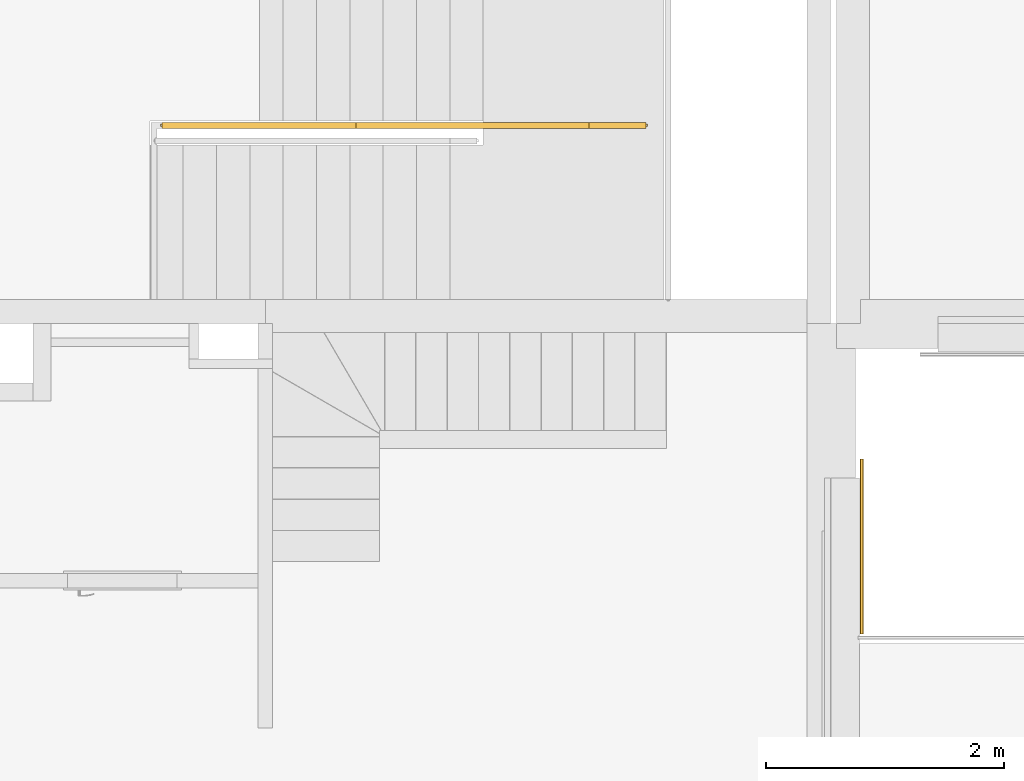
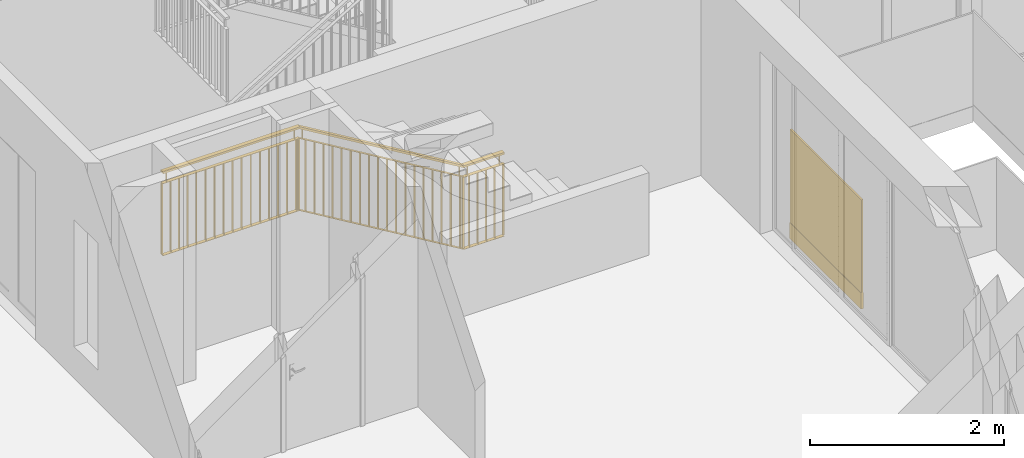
# One storey, part 5 of 61: 2 railings.
"""IFC2X3 building model written with IfcOpenShell, lengths in millimetres."""

from ifc_helpers import new_model, entity, si_unit, converted_unit, derived_unit, money_unit, direction, frame, origin_with_axes, place, context, subcontext, project, spatial, faceted_brep, material, material_list, type_object, element, save


model = new_model("IFC2X3")

# Units and contexts
model_context = context("Model", 3, precision=0.01, world=origin_with_axes(), true_north=direction((0.34421633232, 0.938890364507)))
body_context = subcontext(model_context, "Body", "Model", "MODEL_VIEW")
ifc_project = project(units=[si_unit("LENGTHUNIT", "METRE", prefix="MILLI"), si_unit("AREAUNIT", "SQUARE_METRE"), si_unit("VOLUMEUNIT", "CUBIC_METRE"), converted_unit("PLANEANGLEUNIT", "DEGREE", entity("IfcPlaneAngleMeasure", 0.0174532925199), si_unit("PLANEANGLEUNIT", "RADIAN"), dimensions=[0, 0, 0, 0, 0, 0, 0]), si_unit("SOLIDANGLEUNIT", "STERADIAN"), money_unit("USD"), converted_unit("TIMEUNIT", "Year", entity("IfcTimeMeasure", 31556926.0), si_unit("TIMEUNIT", "SECOND"), dimensions=[0, 0, 1, 0, 0, 0, 0]), si_unit("MASSUNIT", "GRAM", prefix="KILO"), si_unit("THERMODYNAMICTEMPERATUREUNIT", "DEGREE_CELSIUS"), si_unit("LUMINOUSINTENSITYUNIT", "LUMEN"), si_unit("ENERGYUNIT", "JOULE", prefix="MEGA"), derived_unit("THERMALCONDUCTANCEUNIT", [(si_unit("POWERUNIT", "WATT"), 1), (si_unit("LENGTHUNIT", "METRE"), -1), (si_unit("THERMODYNAMICTEMPERATUREUNIT", "KELVIN"), -1)]), derived_unit("SPECIFICHEATCAPACITYUNIT", [(si_unit("ENERGYUNIT", "JOULE"), 1), (si_unit("MASSUNIT", "GRAM", prefix="KILO"), -1), (si_unit("THERMODYNAMICTEMPERATUREUNIT", "KELVIN"), -1)]), derived_unit("MASSDENSITYUNIT", [(si_unit("MASSUNIT", "GRAM", prefix="KILO"), 1), (si_unit("VOLUMEUNIT", "CUBIC_METRE"), -1)])], contexts=[model_context])

# Site, building, storey
site_placement = place(None, origin_with_axes())
site = spatial("IfcSite", under=ifc_project, at=site_placement, Name="USTRONIE MORSKIE", CompositionType="ELEMENT")
building_placement = place(site_placement, origin_with_axes())
building = spatial("IfcBuilding", under=site, at=building_placement, Name="Budynek", CompositionType="ELEMENT")
storey_placement = place(building_placement, frame((0.0, 0.0, 13000.0), z_axis=(0.0, 0.0, 1.0), x_axis=(1.0, 0.0, 0.0)))
storey = spatial("IfcBuildingStorey", under=building, at=storey_placement, Name="PIĘTRO 4", CompositionType="ELEMENT", Elevation=13000.0)

# Railings
ifc_material_1 = material(Name="Szkło struktualne")
ifc_material_2 = material(Name="Profile aluminiowe")
ifc_material_list_1 = material_list([ifc_material_1, ifc_material_2])
railing_type = type_object("IfcRailingType", Name="Typ balustrady", PredefinedType="NOTDEFINED")
railing_1_placement = place(storey_placement, frame((367377.958165, 724111.198359, 0.0), z_axis=(0.0, 0.0, 1.0), x_axis=(-1.0, 0.0, 0.0)))
element("IfcRailing", 1, at=railing_1_placement, inside=storey, type_object=railing_type, material=ifc_material_list_1, Name="BL1", PredefinedType="NOTDEFINED", context=body_context, shape_type="Brep", body=[
    faceted_brep([(-40.0, -1550.0, -300.0), (-40.0, -80.0, -300.0), (-40.0, -80.0, 1070.0), (-40.0, -1550.0, 1070.0), (-60.0, -80.0, -300.0), (-60.0, -1550.0, -300.0), (-60.0, -80.0, 1070.0), (-60.0, -1550.0, 1070.0)], [[[0, 1, 2, 3]], [[4, 1, 0, 5]], [[6, 2, 1, 4]], [[3, 2, 6, 7]], [[0, 3, 7, 5]], [[6, 4, 5, 7]]]),
    faceted_brep([(-65.0, -1550.0, -105.0), (-65.0, -80.0, -105.0), (-65.0, -80.0, -305.0), (-65.0, -1550.0, -305.0), (-60.0, -1550.0, -105.0), (-60.0, -80.0, -105.0), (-60.0, -80.0, -300.0), (-40.0, -80.0, -300.0), (-40.0, -80.0, -105.0), (-35.0, -80.0, -105.0), (-35.0, -80.0, -305.0), (-35.0, -1550.0, -305.0), (-35.0, -1550.0, -105.0), (-40.0, -1550.0, -105.0), (-40.0, -1550.0, -300.0), (-60.0, -1550.0, -300.0)], [[[0, 1, 2, 3]], [[1, 0, 4, 5]], [[6, 7, 8, 9, 10, 2, 1, 5]], [[10, 11, 3, 2]], [[11, 12, 13, 14, 15, 4, 0, 3]], [[15, 6, 5, 4]], [[7, 6, 15, 14]], [[8, 7, 14, 13]], [[9, 8, 13, 12]], [[11, 10, 9, 12]]]),
])
ifc_material_3 = material(Name="Stal konstrukcyjna")
ifc_material_4 = material(Name="Stal nierdzewna")
ifc_material_list_2 = material_list([ifc_material_3, ifc_material_3, ifc_material_3, ifc_material_3, ifc_material_4, ifc_material_4, ifc_material_4, ifc_material_3, ifc_material_3, ifc_material_3, ifc_material_3, ifc_material_3, ifc_material_3, ifc_material_3, ifc_material_3, ifc_material_3, ifc_material_3, ifc_material_3, ifc_material_3, ifc_material_3, ifc_material_3, ifc_material_3, ifc_material_4, ifc_material_4, ifc_material_4, ifc_material_3, ifc_material_3, ifc_material_3, ifc_material_3, ifc_material_3, ifc_material_3, ifc_material_3, ifc_material_3, ifc_material_3, ifc_material_3, ifc_material_3, ifc_material_3, ifc_material_3, ifc_material_3, ifc_material_3, ifc_material_3, ifc_material_3, ifc_material_3, ifc_material_4, ifc_material_4, ifc_material_4, ifc_material_3, ifc_material_3, ifc_material_3, ifc_material_3])
railing_2_placement = place(storey_placement, frame((361447.920919, 728501.199022, -1177.0), z_axis=(0.0, 0.0, 1.0), x_axis=(1.0, 0.0, 0.0)))
element("IfcRailing", 2, at=railing_2_placement, inside=storey, type_object=railing_type, material=ifc_material_list_2, Name="BL1", PredefinedType="NOTDEFINED", context=body_context, shape_type="Brep", body=[
    faceted_brep([(110.0, -44.9999999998, 1026.66666667), (110.0, -24.9999999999, 1026.66666667), (110.0, -24.9999999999, 1926.66666667), (110.0, -44.9999999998, 1926.66666667), (90.0, -44.9999999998, 1026.66666667), (90.0, -24.9999999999, 1026.66666667), (105.0, -39.9999999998, 1026.66666667), (105.0, -29.9999999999, 1026.66666667), (95.0, -29.9999999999, 1026.66666667), (95.0, -39.9999999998, 1026.66666667), (90.0, -24.9999999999, 1926.66666667), (90.0, -44.9999999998, 1926.66666667), (105.0, -39.9999999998, 1926.66666667), (95.0, -39.9999999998, 1926.66666667), (95.0, -29.9999999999, 1926.66666667), (105.0, -29.9999999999, 1926.66666667)], [[[0, 1, 2, 3]], [[0, 4, 5, 1], [6, 7, 8, 9]], [[1, 5, 10, 2]], [[3, 2, 10, 11], [12, 13, 14, 15]], [[4, 0, 3, 11]], [[5, 4, 11, 10]], [[7, 6, 12, 15]], [[8, 7, 15, 14]], [[9, 8, 14, 13]], [[6, 9, 13, 12]]]),
    faceted_brep([(1740.0, -45.0, 1023.89548073), (1740.0, -25.0, 1023.89548073), (1740.0, -25.0, 1923.89548073), (1740.0, -45.0, 1923.89548073), (1720.0, -45.0, 1029.4378526), (1720.0, -25.0, 1029.4378526), (1735.0, -40.0, 1025.2810737), (1735.0, -30.0, 1025.2810737), (1725.0, -30.0, 1028.05225963), (1725.0, -40.0, 1028.05225963), (1720.0, -25.0, 1929.4378526), (1720.0, -45.0, 1929.4378526), (1735.0, -40.0, 1925.2810737), (1725.0, -40.0, 1928.05225963), (1725.0, -30.0, 1928.05225963), (1735.0, -30.0, 1925.2810737)], [[[0, 1, 2, 3]], [[0, 4, 5, 1], [6, 7, 8, 9]], [[1, 5, 10, 2]], [[3, 2, 10, 11], [12, 13, 14, 15]], [[4, 0, 3, 11]], [[5, 4, 11, 10]], [[7, 6, 12, 15]], [[8, 7, 15, 14]], [[9, 8, 14, 13]], [[6, 9, 13, 12]]]),
    faceted_brep([(3700.0, -45.0, -152.771185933), (3700.0, -25.0, -152.771185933), (3700.0, -25.0, 747.228814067), (3700.0, -45.0, 747.228814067), (3680.0, -45.0, -147.228814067), (3680.0, -25.0, -147.228814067), (3695.0, -40.0, -151.385592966), (3695.0, -30.0, -151.385592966), (3685.0, -30.0, -148.614407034), (3685.0, -40.0, -148.614407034), (3680.0, -25.0, 752.771185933), (3680.0, -45.0, 752.771185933), (3695.0, -40.0, 748.614407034), (3685.0, -40.0, 751.385592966), (3685.0, -30.0, 751.385592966), (3695.0, -30.0, 748.614407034)], [[[0, 1, 2, 3]], [[0, 4, 5, 1], [6, 7, 8, 9]], [[1, 5, 10, 2]], [[3, 2, 10, 11], [12, 13, 14, 15]], [[4, 0, 3, 11]], [[5, 4, 11, 10]], [[7, 6, 12, 15]], [[8, 7, 15, 14]], [[9, 8, 14, 13]], [[6, 9, 13, 12]]]),
    faceted_brep([(4180.0, -45.0, -150.0), (4180.0, -25.0, -150.0), (4180.0, -25.0, 750.0), (4180.0, -45.0, 750.0), (4160.0, -45.0, -150.0), (4160.0, -25.0, -150.0), (4175.0, -40.0, -150.0), (4175.0, -30.0, -150.0), (4165.0, -30.0, -150.0), (4165.0, -40.0, -150.0), (4160.0, -25.0, 750.0), (4160.0, -45.0, 750.0), (4175.0, -40.0, 750.0), (4165.0, -40.0, 750.0), (4165.0, -30.0, 750.0), (4175.0, -30.0, 750.0)], [[[0, 1, 2, 3]], [[0, 4, 5, 1], [6, 7, 8, 9]], [[1, 5, 10, 2]], [[3, 2, 10, 11], [12, 13, 14, 15]], [[4, 0, 3, 11]], [[5, 4, 11, 10]], [[7, 6, 12, 15]], [[8, 7, 15, 14]], [[9, 8, 14, 13]], [[6, 9, 13, 12]]]),
    faceted_brep([(100.0, -59.9999999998, 2076.66666667), (100.0, -59.9999999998, 2051.66666667), (1723.07203517, -59.9999999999, 2051.66666667), (1730.0, -59.9999999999, 2076.66666667), (100.0, -9.99999999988, 2076.66666667), (100.0, -9.99999999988, 2051.66666667), (100.0, -24.9999999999, 2051.66666667), (100.0, -24.9999999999, 2056.66666667), (100.0, -44.9999999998, 2056.66666667), (100.0, -44.9999999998, 2051.66666667), (1723.07203517, -45.0, 2051.66666667), (1724.45762813, -45.0, 2056.66666667), (1724.45762813, -25.0, 2056.66666667), (1723.07203517, -25.0, 2051.66666667), (1723.07203517, -9.99999999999, 2051.66666667), (1730.0, -9.99999999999, 2076.66666667)], [[[0, 1, 2, 3]], [[0, 4, 5, 6, 7, 8, 9, 1]], [[1, 9, 10, 2]], [[3, 2, 10, 11, 12, 13, 14, 15]], [[4, 0, 3, 15]], [[5, 4, 15, 14]], [[6, 5, 14, 13]], [[7, 6, 13, 12]], [[8, 7, 12, 11]], [[9, 8, 11, 10]]]),
    faceted_brep([(100.0, -44.9999999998, 2051.66666667), (100.0, -24.9999999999, 2051.66666667), (1723.07203517, -25.0, 2051.66666667), (1723.07203517, -45.0, 2051.66666667), (100.0, -44.9999999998, 2056.66666667), (100.0, -24.9999999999, 2056.66666667), (1724.45762813, -25.0, 2056.66666667), (1724.45762813, -45.0, 2056.66666667)], [[[0, 1, 2, 3]], [[0, 4, 5, 1]], [[1, 5, 6, 2]], [[3, 2, 6, 7]], [[4, 0, 3, 7]], [[5, 4, 7, 6]]]),
    faceted_brep([(152.5, -44.9999999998, 1931.66666667), (152.5, -24.9999999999, 1931.66666667), (152.5, -24.9999999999, 2051.66666667), (152.5, -44.9999999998, 2051.66666667), (147.5, -44.9999999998, 1931.66666667), (147.5, -24.9999999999, 1931.66666667), (147.5, -24.9999999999, 2051.66666667), (147.5, -44.9999999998, 2051.66666667)], [[[0, 1, 2, 3]], [[0, 4, 5, 1]], [[1, 5, 6, 2]], [[3, 2, 6, 7]], [[4, 0, 3, 7]], [[5, 4, 7, 6]]]),
    faceted_brep([(1682.5, -45.0, 1931.66666667), (1682.5, -25.0, 1931.66666667), (1682.5, -25.0, 2051.66666667), (1682.5, -45.0, 2051.66666667), (1677.5, -45.0, 1931.66666667), (1677.5, -25.0, 1931.66666667), (1677.5, -25.0, 2051.66666667), (1677.5, -45.0, 2051.66666667)], [[[0, 1, 2, 3]], [[0, 4, 5, 1]], [[1, 5, 6, 2]], [[3, 2, 6, 7]], [[4, 0, 3, 7]], [[5, 4, 7, 6]]]),
    faceted_brep([(100.0, -54.9999999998, 1926.66666667), (100.0, -54.9999999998, 1921.66666667), (1728.61440703, -54.9999999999, 1921.66666667), (1730.0, -54.9999999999, 1926.66666667), (100.0, -14.9999999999, 1926.66666667), (100.0, -14.9999999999, 1921.66666667), (1728.61440703, -15.0, 1921.66666667), (1730.0, -15.0, 1926.66666667)], [[[0, 1, 2, 3]], [[0, 4, 5, 1]], [[1, 5, 6, 2]], [[3, 2, 6, 7]], [[4, 0, 3, 7]], [[5, 4, 7, 6]]]),
    faceted_brep([(100.0, -54.9999999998, 1019.16666667), (100.0, -54.9999999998, 1014.16666667), (1729.30720352, -54.9999999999, 1014.16666667), (1730.69279648, -54.9999999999, 1019.16666667), (100.0, -14.9999999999, 1019.16666667), (100.0, -14.9999999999, 1014.16666667), (1729.30720352, -15.0, 1014.16666667), (1730.69279648, -15.0, 1019.16666667)], [[[0, 1, 2, 3]], [[0, 4, 5, 1]], [[1, 5, 6, 2]], [[3, 2, 6, 7]], [[4, 0, 3, 7]], [[5, 4, 7, 6]]]),
    faceted_brep([(207.5, -47.4999999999, 1026.66666667), (207.5, -22.4999999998, 1026.66666667), (207.5, -22.4999999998, 1916.66666667), (207.5, -47.4999999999, 1916.66666667), (197.5, -47.4999999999, 1026.66666667), (197.5, -22.4999999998, 1026.66666667), (197.5, -22.4999999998, 1916.66666667), (197.5, -47.4999999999, 1916.66666667)], [[[0, 1, 2, 3]], [[0, 4, 5, 1]], [[1, 5, 6, 2]], [[3, 2, 6, 7]], [[4, 0, 3, 7]], [[5, 4, 7, 6]]]),
    faceted_brep([(310.0, -47.4999999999, 1026.66666667), (310.0, -22.4999999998, 1026.66666667), (310.0, -22.4999999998, 1916.66666667), (310.0, -47.4999999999, 1916.66666667), (300.0, -47.4999999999, 1026.66666667), (300.0, -22.4999999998, 1026.66666667), (300.0, -22.4999999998, 1916.66666667), (300.0, -47.4999999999, 1916.66666667)], [[[0, 1, 2, 3]], [[0, 4, 5, 1]], [[1, 5, 6, 2]], [[3, 2, 6, 7]], [[4, 0, 3, 7]], [[5, 4, 7, 6]]]),
    faceted_brep([(412.5, -47.4999999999, 1026.66666667), (412.5, -22.4999999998, 1026.66666667), (412.5, -22.4999999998, 1916.66666667), (412.5, -47.4999999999, 1916.66666667), (402.5, -47.4999999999, 1026.66666667), (402.5, -22.4999999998, 1026.66666667), (402.5, -22.4999999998, 1916.66666667), (402.5, -47.4999999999, 1916.66666667)], [[[0, 1, 2, 3]], [[0, 4, 5, 1]], [[1, 5, 6, 2]], [[3, 2, 6, 7]], [[4, 0, 3, 7]], [[5, 4, 7, 6]]]),
    faceted_brep([(512.5, -49.9999999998, 1026.66666667), (512.5, -19.9999999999, 1026.66666667), (512.5, -19.9999999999, 1916.66666667), (512.5, -49.9999999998, 1916.66666667), (507.5, -49.9999999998, 1026.66666667), (507.5, -19.9999999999, 1026.66666667), (507.5, -19.9999999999, 1916.66666667), (507.5, -49.9999999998, 1916.66666667)], [[[0, 1, 2, 3]], [[0, 4, 5, 1]], [[1, 5, 6, 2]], [[3, 2, 6, 7]], [[4, 0, 3, 7]], [[5, 4, 7, 6]]]),
    faceted_brep([(623.333333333, -47.4999999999, 1026.66666667), (623.333333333, -22.4999999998, 1026.66666667), (623.333333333, -22.4999999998, 1916.66666667), (623.333333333, -47.4999999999, 1916.66666667), (613.333333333, -47.4999999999, 1026.66666667), (613.333333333, -22.4999999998, 1026.66666667), (613.333333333, -22.4999999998, 1916.66666667), (613.333333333, -47.4999999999, 1916.66666667)], [[[0, 1, 2, 3]], [[0, 4, 5, 1]], [[1, 5, 6, 2]], [[3, 2, 6, 7]], [[4, 0, 3, 7]], [[5, 4, 7, 6]]]),
    faceted_brep([(731.666666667, -47.4999999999, 1026.66666667), (731.666666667, -22.4999999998, 1026.66666667), (731.666666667, -22.4999999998, 1916.66666667), (731.666666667, -47.4999999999, 1916.66666667), (721.666666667, -47.4999999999, 1026.66666667), (721.666666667, -22.4999999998, 1026.66666667), (721.666666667, -22.4999999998, 1916.66666667), (721.666666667, -47.4999999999, 1916.66666667)], [[[0, 1, 2, 3]], [[0, 4, 5, 1]], [[1, 5, 6, 2]], [[3, 2, 6, 7]], [[4, 0, 3, 7]], [[5, 4, 7, 6]]]),
    faceted_brep([(840.0, -47.4999999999, 1026.66666667), (840.0, -22.4999999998, 1026.66666667), (840.0, -22.4999999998, 1916.66666667), (840.0, -47.4999999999, 1916.66666667), (830.0, -47.4999999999, 1026.66666667), (830.0, -22.4999999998, 1026.66666667), (830.0, -22.4999999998, 1916.66666667), (830.0, -47.4999999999, 1916.66666667)], [[[0, 1, 2, 3]], [[0, 4, 5, 1]], [[1, 5, 6, 2]], [[3, 2, 6, 7]], [[4, 0, 3, 7]], [[5, 4, 7, 6]]]),
    faceted_brep([(948.333333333, -47.5, 1026.66666667), (948.333333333, -22.4999999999, 1026.66666667), (948.333333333, -22.4999999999, 1916.66666667), (948.333333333, -47.5, 1916.66666667), (938.333333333, -47.5, 1026.66666667), (938.333333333, -22.4999999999, 1026.66666667), (938.333333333, -22.4999999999, 1916.66666667), (938.333333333, -47.5, 1916.66666667)], [[[0, 1, 2, 3]], [[0, 4, 5, 1]], [[1, 5, 6, 2]], [[3, 2, 6, 7]], [[4, 0, 3, 7]], [[5, 4, 7, 6]]]),
    faceted_brep([(1056.66666667, -47.5, 1026.66666667), (1056.66666667, -22.4999999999, 1026.66666667), (1056.66666667, -22.4999999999, 1916.66666667), (1056.66666667, -47.5, 1916.66666667), (1046.66666667, -47.5, 1026.66666667), (1046.66666667, -22.4999999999, 1026.66666667), (1046.66666667, -22.4999999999, 1916.66666667), (1046.66666667, -47.5, 1916.66666667)], [[[0, 1, 2, 3]], [[0, 4, 5, 1]], [[1, 5, 6, 2]], [[3, 2, 6, 7]], [[4, 0, 3, 7]], [[5, 4, 7, 6]]]),
    faceted_brep([(1162.5, -50.0, 1026.66666667), (1162.5, -20.0, 1026.66666667), (1162.5, -20.0, 1916.66666667), (1162.5, -50.0, 1916.66666667), (1157.5, -50.0, 1026.66666667), (1157.5, -20.0, 1026.66666667), (1157.5, -20.0, 1916.66666667), (1157.5, -50.0, 1916.66666667)], [[[0, 1, 2, 3]], [[0, 4, 5, 1]], [[1, 5, 6, 2]], [[3, 2, 6, 7]], [[4, 0, 3, 7]], [[5, 4, 7, 6]]]),
    faceted_brep([(1273.33333333, -47.5, 1026.66666667), (1273.33333333, -22.4999999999, 1026.66666667), (1273.33333333, -22.4999999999, 1916.66666667), (1273.33333333, -47.5, 1916.66666667), (1263.33333333, -47.5, 1026.66666667), (1263.33333333, -22.4999999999, 1026.66666667), (1263.33333333, -22.4999999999, 1916.66666667), (1263.33333333, -47.5, 1916.66666667)], [[[0, 1, 2, 3]], [[0, 4, 5, 1]], [[1, 5, 6, 2]], [[3, 2, 6, 7]], [[4, 0, 3, 7]], [[5, 4, 7, 6]]]),
    faceted_brep([(1381.66666667, -47.5, 1026.66666667), (1381.66666667, -22.4999999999, 1026.66666667), (1381.66666667, -22.4999999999, 1916.66666667), (1381.66666667, -47.5, 1916.66666667), (1371.66666667, -47.5, 1026.66666667), (1371.66666667, -22.4999999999, 1026.66666667), (1371.66666667, -22.4999999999, 1916.66666667), (1371.66666667, -47.5, 1916.66666667)], [[[0, 1, 2, 3]], [[0, 4, 5, 1]], [[1, 5, 6, 2]], [[3, 2, 6, 7]], [[4, 0, 3, 7]], [[5, 4, 7, 6]]]),
    faceted_brep([(1490.0, -47.5, 1026.66666667), (1490.0, -22.4999999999, 1026.66666667), (1490.0, -22.4999999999, 1916.66666667), (1490.0, -47.5, 1916.66666667), (1480.0, -47.5, 1026.66666667), (1480.0, -22.4999999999, 1026.66666667), (1480.0, -22.4999999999, 1916.66666667), (1480.0, -47.5, 1916.66666667)], [[[0, 1, 2, 3]], [[0, 4, 5, 1]], [[1, 5, 6, 2]], [[3, 2, 6, 7]], [[4, 0, 3, 7]], [[5, 4, 7, 6]]]),
    faceted_brep([(1598.33333333, -47.5, 1026.66666667), (1598.33333333, -22.4999999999, 1026.66666667), (1598.33333333, -22.4999999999, 1916.66666667), (1598.33333333, -47.5, 1916.66666667), (1588.33333333, -47.5, 1026.66666667), (1588.33333333, -22.4999999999, 1026.66666667), (1588.33333333, -22.4999999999, 1916.66666667), (1588.33333333, -47.5, 1916.66666667)], [[[0, 1, 2, 3]], [[0, 4, 5, 1]], [[1, 5, 6, 2]], [[3, 2, 6, 7]], [[4, 0, 3, 7]], [[5, 4, 7, 6]]]),
    faceted_brep([(1706.66666667, -47.5, 1026.66666667), (1706.66666667, -22.4999999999, 1026.66666667), (1706.66666667, -22.4999999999, 1916.66666667), (1706.66666667, -47.5, 1916.66666667), (1696.66666667, -47.5, 1026.66666667), (1696.66666667, -22.4999999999, 1026.66666667), (1696.66666667, -22.4999999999, 1916.66666667), (1696.66666667, -47.5, 1916.66666667)], [[[0, 1, 2, 3]], [[0, 4, 5, 1]], [[1, 5, 6, 2]], [[3, 2, 6, 7]], [[4, 0, 3, 7]], [[5, 4, 7, 6]]]),
    faceted_brep([(1730.0, -59.9999999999, 2076.66666667), (1723.07203517, -59.9999999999, 2051.66666667), (3683.07203517, -59.9999999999, 875.0), (3690.0, -59.9999999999, 900.0), (1730.0, -9.99999999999, 2076.66666667), (1723.07203517, -9.99999999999, 2051.66666667), (1723.07203517, -25.0, 2051.66666667), (1724.45762813, -25.0, 2056.66666667), (1724.45762813, -45.0, 2056.66666667), (1723.07203517, -45.0, 2051.66666667), (3683.07203517, -45.0, 875.0), (3684.45762813, -45.0, 880.0), (3684.45762813, -25.0, 880.0), (3683.07203517, -25.0, 875.0), (3683.07203517, -9.99999999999, 875.0), (3690.0, -9.99999999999, 900.0)], [[[0, 1, 2, 3]], [[0, 4, 5, 6, 7, 8, 9, 1]], [[1, 9, 10, 2]], [[3, 2, 10, 11, 12, 13, 14, 15]], [[4, 0, 3, 15]], [[5, 4, 15, 14]], [[6, 5, 14, 13]], [[7, 6, 13, 12]], [[8, 7, 12, 11]], [[9, 8, 11, 10]]]),
    faceted_brep([(1723.07203517, -45.0, 2051.66666667), (1723.07203517, -25.0, 2051.66666667), (3683.07203517, -25.0, 875.0), (3683.07203517, -45.0, 875.0), (1724.45762813, -45.0, 2056.66666667), (1724.45762813, -25.0, 2056.66666667), (3684.45762813, -25.0, 880.0), (3684.45762813, -45.0, 880.0)], [[[0, 1, 2, 3]], [[0, 4, 5, 1]], [[1, 5, 6, 2]], [[3, 2, 6, 7]], [[4, 0, 3, 7]], [[5, 4, 7, 6]]]),
    faceted_brep([(1775.36821214, -45.0, 1901.77202301), (1775.36821214, -25.0, 1901.77202301), (1775.36821214, -25.0, 2021.77202301), (1775.36821214, -45.0, 2021.77202301), (1770.36821214, -45.0, 1901.77202301), (1770.36821214, -25.0, 1901.77202301), (1770.36821214, -25.0, 2023.27287335), (1772.86821214, -25.0, 2023.27287335), (1772.86821214, -45.0, 2023.27287335), (1770.36821214, -45.0, 2023.27287335)], [[[0, 1, 2, 3]], [[0, 4, 5, 1]], [[1, 5, 6, 7, 2]], [[7, 8, 3, 2]], [[4, 0, 3, 8, 9]], [[5, 4, 9, 6]], [[7, 6, 9, 8]]]),
    faceted_brep([(3649.63178786, -45.0, 776.576372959), (3649.63178786, -25.0, 776.576372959), (3649.63178786, -25.0, 896.576372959), (3649.63178786, -45.0, 896.576372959), (3644.63178786, -45.0, 776.576372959), (3644.63178786, -25.0, 776.576372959), (3644.63178786, -25.0, 898.077223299), (3647.13178786, -25.0, 898.077223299), (3647.13178786, -45.0, 898.077223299), (3644.63178786, -45.0, 898.077223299)], [[[0, 1, 2, 3]], [[0, 4, 5, 1]], [[1, 5, 6, 7, 2]], [[7, 8, 3, 2]], [[4, 0, 3, 8, 9]], [[5, 4, 9, 6]], [[7, 6, 9, 8]]]),
    faceted_brep([(1730.0, -54.9999999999, 1926.66666667), (1728.61440703, -54.9999999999, 1921.66666667), (3688.61440703, -54.9999999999, 745.0), (3690.0, -54.9999999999, 750.0), (1730.0, -15.0, 1926.66666667), (1728.61440703, -15.0, 1921.66666667), (3688.61440703, -15.0, 745.0), (3690.0, -15.0, 750.0)], [[[0, 1, 2, 3]], [[0, 4, 5, 1]], [[1, 5, 6, 2]], [[3, 2, 6, 7]], [[4, 0, 3, 7]], [[5, 4, 7, 6]]]),
    faceted_brep([(1730.69279648, -54.9999999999, 1019.16666667), (1729.30720352, -54.9999999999, 1014.16666667), (3689.30720352, -54.9999999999, -162.5), (3690.69279648, -54.9999999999, -157.5), (1730.69279648, -15.0, 1019.16666667), (1729.30720352, -15.0, 1014.16666667), (3689.30720352, -15.0, -162.5), (3690.69279648, -15.0, -157.5)], [[[0, 1, 2, 3]], [[0, 4, 5, 1]], [[1, 5, 6, 2]], [[3, 2, 6, 7]], [[4, 0, 3, 7]], [[5, 4, 7, 6]]]),
    faceted_brep([(1812.5, -50.0, 977.138605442), (1812.5, -20.0, 977.138605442), (1812.5, -20.0, 1867.13860544), (1812.5, -50.0, 1867.13860544), (1807.5, -50.0, 980.140306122), (1807.5, -20.0, 980.140306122), (1807.5, -20.0, 1870.14030612), (1807.5, -50.0, 1870.14030612)], [[[0, 1, 2, 3]], [[0, 4, 5, 1]], [[1, 5, 6, 2]], [[3, 2, 6, 7]], [[4, 0, 3, 7]], [[5, 4, 7, 6]]]),
    faceted_brep([(1923.33333333, -47.5, 910.600907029), (1923.33333333, -22.4999999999, 910.600907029), (1923.33333333, -22.4999999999, 1800.60090703), (1923.33333333, -47.5, 1800.60090703), (1913.33333333, -47.5, 916.60430839), (1913.33333333, -22.4999999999, 916.60430839), (1913.33333333, -22.4999999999, 1806.60430839), (1913.33333333, -47.5, 1806.60430839)], [[[0, 1, 2, 3]], [[0, 4, 5, 1]], [[1, 5, 6, 2]], [[3, 2, 6, 7]], [[4, 0, 3, 7]], [[5, 4, 7, 6]]]),
    faceted_brep([(2031.66666667, -47.5, 845.564058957), (2031.66666667, -22.4999999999, 845.564058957), (2031.66666667, -22.4999999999, 1735.56405896), (2031.66666667, -47.5, 1735.56405896), (2021.66666667, -47.5, 851.567460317), (2021.66666667, -22.4999999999, 851.567460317), (2021.66666667, -22.4999999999, 1741.56746032), (2021.66666667, -47.5, 1741.56746032)], [[[0, 1, 2, 3]], [[0, 4, 5, 1]], [[1, 5, 6, 2]], [[3, 2, 6, 7]], [[4, 0, 3, 7]], [[5, 4, 7, 6]]]),
    faceted_brep([(2140.0, -47.5, 780.527210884), (2140.0, -22.4999999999, 780.527210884), (2140.0, -22.4999999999, 1670.52721088), (2140.0, -47.5, 1670.52721088), (2130.0, -47.5, 786.530612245), (2130.0, -22.4999999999, 786.530612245), (2130.0, -22.4999999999, 1676.53061224), (2130.0, -47.5, 1676.53061224)], [[[0, 1, 2, 3]], [[0, 4, 5, 1]], [[1, 5, 6, 2]], [[3, 2, 6, 7]], [[4, 0, 3, 7]], [[5, 4, 7, 6]]]),
    faceted_brep([(2248.33333333, -47.5, 715.490362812), (2248.33333333, -22.4999999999, 715.490362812), (2248.33333333, -22.4999999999, 1605.49036281), (2248.33333333, -47.5, 1605.49036281), (2238.33333333, -47.5, 721.493764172), (2238.33333333, -22.4999999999, 721.493764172), (2238.33333333, -22.4999999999, 1611.49376417), (2238.33333333, -47.5, 1611.49376417)], [[[0, 1, 2, 3]], [[0, 4, 5, 1]], [[1, 5, 6, 2]], [[3, 2, 6, 7]], [[4, 0, 3, 7]], [[5, 4, 7, 6]]]),
    faceted_brep([(2356.66666667, -47.5, 650.453514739), (2356.66666667, -22.4999999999, 650.453514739), (2356.66666667, -22.4999999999, 1540.45351474), (2356.66666667, -47.5, 1540.45351474), (2346.66666667, -47.5, 656.4569161), (2346.66666667, -22.4999999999, 656.4569161), (2346.66666667, -22.4999999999, 1546.4569161), (2346.66666667, -47.5, 1546.4569161)], [[[0, 1, 2, 3]], [[0, 4, 5, 1]], [[1, 5, 6, 2]], [[3, 2, 6, 7]], [[4, 0, 3, 7]], [[5, 4, 7, 6]]]),
    faceted_brep([(2462.5, -50.0, 586.917517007), (2462.5, -20.0, 586.917517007), (2462.5, -20.0, 1476.91751701), (2462.5, -50.0, 1476.91751701), (2457.5, -50.0, 589.919217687), (2457.5, -20.0, 589.919217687), (2457.5, -20.0, 1479.91921769), (2457.5, -50.0, 1479.91921769)], [[[0, 1, 2, 3]], [[0, 4, 5, 1]], [[1, 5, 6, 2]], [[3, 2, 6, 7]], [[4, 0, 3, 7]], [[5, 4, 7, 6]]]),
    faceted_brep([(2573.33333333, -47.5, 520.379818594), (2573.33333333, -22.4999999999, 520.379818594), (2573.33333333, -22.4999999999, 1410.37981859), (2573.33333333, -47.5, 1410.37981859), (2563.33333333, -47.5, 526.383219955), (2563.33333333, -22.4999999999, 526.383219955), (2563.33333333, -22.4999999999, 1416.38321995), (2563.33333333, -47.5, 1416.38321995)], [[[0, 1, 2, 3]], [[0, 4, 5, 1]], [[1, 5, 6, 2]], [[3, 2, 6, 7]], [[4, 0, 3, 7]], [[5, 4, 7, 6]]]),
    faceted_brep([(2681.66666667, -47.5, 455.342970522), (2681.66666667, -22.4999999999, 455.342970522), (2681.66666667, -22.4999999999, 1345.34297052), (2681.66666667, -47.5, 1345.34297052), (2671.66666667, -47.5, 461.346371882), (2671.66666667, -22.4999999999, 461.346371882), (2671.66666667, -22.4999999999, 1351.34637188), (2671.66666667, -47.5, 1351.34637188)], [[[0, 1, 2, 3]], [[0, 4, 5, 1]], [[1, 5, 6, 2]], [[3, 2, 6, 7]], [[4, 0, 3, 7]], [[5, 4, 7, 6]]]),
    faceted_brep([(2790.0, -47.5, 390.306122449), (2790.0, -22.4999999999, 390.306122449), (2790.0, -22.4999999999, 1280.30612245), (2790.0, -47.5, 1280.30612245), (2780.0, -47.5, 396.30952381), (2780.0, -22.4999999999, 396.30952381), (2780.0, -22.4999999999, 1286.30952381), (2780.0, -47.5, 1286.30952381)], [[[0, 1, 2, 3]], [[0, 4, 5, 1]], [[1, 5, 6, 2]], [[3, 2, 6, 7]], [[4, 0, 3, 7]], [[5, 4, 7, 6]]]),
    faceted_brep([(2898.33333333, -47.5, 325.269274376), (2898.33333333, -22.4999999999, 325.269274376), (2898.33333333, -22.4999999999, 1215.26927438), (2898.33333333, -47.5, 1215.26927438), (2888.33333333, -47.5, 331.272675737), (2888.33333333, -22.4999999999, 331.272675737), (2888.33333333, -22.4999999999, 1221.27267574), (2888.33333333, -47.5, 1221.27267574)], [[[0, 1, 2, 3]], [[0, 4, 5, 1]], [[1, 5, 6, 2]], [[3, 2, 6, 7]], [[4, 0, 3, 7]], [[5, 4, 7, 6]]]),
    faceted_brep([(3006.66666667, -47.5, 260.232426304), (3006.66666667, -22.4999999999, 260.232426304), (3006.66666667, -22.4999999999, 1150.2324263), (3006.66666667, -47.5, 1150.2324263), (2996.66666667, -47.5, 266.235827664), (2996.66666667, -22.4999999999, 266.235827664), (2996.66666667, -22.4999999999, 1156.23582766), (2996.66666667, -47.5, 1156.23582766)], [[[0, 1, 2, 3]], [[0, 4, 5, 1]], [[1, 5, 6, 2]], [[3, 2, 6, 7]], [[4, 0, 3, 7]], [[5, 4, 7, 6]]]),
    faceted_brep([(3112.5, -50.0, 196.696428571), (3112.5, -20.0, 196.696428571), (3112.5, -20.0, 1086.69642857), (3112.5, -50.0, 1086.69642857), (3107.5, -50.0, 199.698129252), (3107.5, -20.0, 199.698129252), (3107.5, -20.0, 1089.69812925), (3107.5, -50.0, 1089.69812925)], [[[0, 1, 2, 3]], [[0, 4, 5, 1]], [[1, 5, 6, 2]], [[3, 2, 6, 7]], [[4, 0, 3, 7]], [[5, 4, 7, 6]]]),
    faceted_brep([(3223.33333333, -47.5, 130.158730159), (3223.33333333, -22.4999999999, 130.158730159), (3223.33333333, -22.4999999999, 1020.15873016), (3223.33333333, -47.5, 1020.15873016), (3213.33333333, -47.5, 136.162131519), (3213.33333333, -22.4999999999, 136.162131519), (3213.33333333, -22.4999999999, 1026.16213152), (3213.33333333, -47.5, 1026.16213152)], [[[0, 1, 2, 3]], [[0, 4, 5, 1]], [[1, 5, 6, 2]], [[3, 2, 6, 7]], [[4, 0, 3, 7]], [[5, 4, 7, 6]]]),
    faceted_brep([(3331.66666667, -47.5, 65.1218820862), (3331.66666667, -22.4999999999, 65.1218820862), (3331.66666667, -22.4999999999, 955.121882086), (3331.66666667, -47.5, 955.121882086), (3321.66666667, -47.5, 71.1252834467), (3321.66666667, -22.4999999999, 71.1252834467), (3321.66666667, -22.4999999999, 961.125283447), (3321.66666667, -47.5, 961.125283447)], [[[0, 1, 2, 3]], [[0, 4, 5, 1]], [[1, 5, 6, 2]], [[3, 2, 6, 7]], [[4, 0, 3, 7]], [[5, 4, 7, 6]]]),
    faceted_brep([(3440.0, -47.5, 0.0850340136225), (3440.0, -22.4999999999, 0.0850340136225), (3440.0, -22.4999999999, 890.085034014), (3440.0, -47.5, 890.085034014), (3430.0, -47.5, 6.08843537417), (3430.0, -22.4999999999, 6.08843537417), (3430.0, -22.4999999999, 896.088435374), (3430.0, -47.5, 896.088435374)], [[[0, 1, 2, 3]], [[0, 4, 5, 1]], [[1, 5, 6, 2]], [[3, 2, 6, 7]], [[4, 0, 3, 7]], [[5, 4, 7, 6]]]),
    faceted_brep([(3548.33333333, -47.5, -64.9518140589), (3548.33333333, -22.4999999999, -64.9518140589), (3548.33333333, -22.4999999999, 825.048185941), (3548.33333333, -47.5, 825.048185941), (3538.33333333, -47.5, -58.9484126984), (3538.33333333, -22.4999999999, -58.9484126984), (3538.33333333, -22.4999999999, 831.051587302), (3538.33333333, -47.5, 831.051587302)], [[[0, 1, 2, 3]], [[0, 4, 5, 1]], [[1, 5, 6, 2]], [[3, 2, 6, 7]], [[4, 0, 3, 7]], [[5, 4, 7, 6]]]),
    faceted_brep([(3656.66666667, -47.5, -129.988662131), (3656.66666667, -22.4999999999, -129.988662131), (3656.66666667, -22.4999999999, 760.011337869), (3656.66666667, -47.5, 760.011337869), (3646.66666667, -47.5, -123.985260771), (3646.66666667, -22.4999999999, -123.985260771), (3646.66666667, -22.4999999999, 766.014739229), (3646.66666667, -47.5, 766.014739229)], [[[0, 1, 2, 3]], [[0, 4, 5, 1]], [[1, 5, 6, 2]], [[3, 2, 6, 7]], [[4, 0, 3, 7]], [[5, 4, 7, 6]]]),
    faceted_brep([(3690.0, -59.9999999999, 900.0), (3683.07203517, -59.9999999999, 875.0), (4170.0, -59.9999999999, 875.0), (4170.0, -59.9999999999, 900.0), (3690.0, -9.99999999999, 900.0), (3683.07203517, -9.99999999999, 875.0), (3683.07203517, -25.0, 875.0), (3684.45762813, -25.0, 880.0), (3684.45762813, -45.0, 880.0), (3683.07203517, -45.0, 875.0), (4170.0, -45.0, 875.0), (4170.0, -45.0, 880.0), (4170.0, -25.0, 880.0), (4170.0, -25.0, 875.0), (4170.0, -9.99999999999, 875.0), (4170.0, -9.99999999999, 900.0)], [[[0, 1, 2, 3]], [[0, 4, 5, 6, 7, 8, 9, 1]], [[1, 9, 10, 2]], [[3, 2, 10, 11, 12, 13, 14, 15]], [[4, 0, 3, 15]], [[5, 4, 15, 14]], [[6, 5, 14, 13]], [[7, 6, 13, 12]], [[8, 7, 12, 11]], [[9, 8, 11, 10]]]),
    faceted_brep([(3683.07203517, -45.0, 875.0), (3683.07203517, -25.0, 875.0), (4170.0, -25.0, 875.0), (4170.0, -45.0, 875.0), (3684.45762813, -45.0, 880.0), (3684.45762813, -25.0, 880.0), (4170.0, -25.0, 880.0), (4170.0, -45.0, 880.0)], [[[0, 1, 2, 3]], [[0, 4, 5, 1]], [[1, 5, 6, 2]], [[3, 2, 6, 7]], [[4, 0, 3, 7]], [[5, 4, 7, 6]]]),
    faceted_brep([(3742.5, -45.0, 755.0), (3742.5, -25.0, 755.0), (3742.5, -25.0, 875.0), (3742.5, -45.0, 875.0), (3737.5, -45.0, 755.0), (3737.5, -25.0, 755.0), (3737.5, -25.0, 875.0), (3737.5, -45.0, 875.0)], [[[0, 1, 2, 3]], [[0, 4, 5, 1]], [[1, 5, 6, 2]], [[3, 2, 6, 7]], [[4, 0, 3, 7]], [[5, 4, 7, 6]]]),
    faceted_brep([(4122.5, -45.0, 755.0), (4122.5, -25.0, 755.0), (4122.5, -25.0, 875.0), (4122.5, -45.0, 875.0), (4117.5, -45.0, 755.0), (4117.5, -25.0, 755.0), (4117.5, -25.0, 875.0), (4117.5, -45.0, 875.0)], [[[0, 1, 2, 3]], [[0, 4, 5, 1]], [[1, 5, 6, 2]], [[3, 2, 6, 7]], [[4, 0, 3, 7]], [[5, 4, 7, 6]]]),
    faceted_brep([(3690.0, -54.9999999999, 750.0), (3688.61440703, -54.9999999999, 745.0), (4170.0, -54.9999999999, 745.0), (4170.0, -54.9999999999, 750.0), (3690.0, -15.0, 750.0), (3688.61440703, -15.0, 745.0), (4170.0, -15.0, 745.0), (4170.0, -15.0, 750.0)], [[[0, 1, 2, 3]], [[0, 4, 5, 1]], [[1, 5, 6, 2]], [[3, 2, 6, 7]], [[4, 0, 3, 7]], [[5, 4, 7, 6]]]),
    faceted_brep([(3690.69279648, -54.9999999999, -157.5), (3689.30720352, -54.9999999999, -162.5), (4170.0, -54.9999999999, -162.5), (4170.0, -54.9999999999, -157.5), (3690.69279648, -15.0, -157.5), (3689.30720352, -15.0, -162.5), (4170.0, -15.0, -162.5), (4170.0, -15.0, -157.5)], [[[0, 1, 2, 3]], [[0, 4, 5, 1]], [[1, 5, 6, 2]], [[3, 2, 6, 7]], [[4, 0, 3, 7]], [[5, 4, 7, 6]]]),
    faceted_brep([(3762.5, -50.0, -150.0), (3762.5, -20.0, -150.0), (3762.5, -20.0, 740.0), (3762.5, -50.0, 740.0), (3757.5, -50.0, -150.0), (3757.5, -20.0, -150.0), (3757.5, -20.0, 740.0), (3757.5, -50.0, 740.0)], [[[0, 1, 2, 3]], [[0, 4, 5, 1]], [[1, 5, 6, 2]], [[3, 2, 6, 7]], [[4, 0, 3, 7]], [[5, 4, 7, 6]]]),
    faceted_brep([(3867.5, -47.5, -150.0), (3867.5, -22.4999999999, -150.0), (3867.5, -22.4999999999, 740.0), (3867.5, -47.5, 740.0), (3857.5, -47.5, -150.0), (3857.5, -22.4999999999, -150.0), (3857.5, -22.4999999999, 740.0), (3857.5, -47.5, 740.0)], [[[0, 1, 2, 3]], [[0, 4, 5, 1]], [[1, 5, 6, 2]], [[3, 2, 6, 7]], [[4, 0, 3, 7]], [[5, 4, 7, 6]]]),
    faceted_brep([(3970.0, -47.5, -150.0), (3970.0, -22.4999999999, -150.0), (3970.0, -22.4999999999, 740.0), (3970.0, -47.5, 740.0), (3960.0, -47.5, -150.0), (3960.0, -22.4999999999, -150.0), (3960.0, -22.4999999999, 740.0), (3960.0, -47.5, 740.0)], [[[0, 1, 2, 3]], [[0, 4, 5, 1]], [[1, 5, 6, 2]], [[3, 2, 6, 7]], [[4, 0, 3, 7]], [[5, 4, 7, 6]]]),
    faceted_brep([(4072.5, -47.5, -150.0), (4072.5, -22.4999999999, -150.0), (4072.5, -22.4999999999, 740.0), (4072.5, -47.5, 740.0), (4062.5, -47.5, -150.0), (4062.5, -22.4999999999, -150.0), (4062.5, -22.4999999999, 740.0), (4062.5, -47.5, 740.0)], [[[0, 1, 2, 3]], [[0, 4, 5, 1]], [[1, 5, 6, 2]], [[3, 2, 6, 7]], [[4, 0, 3, 7]], [[5, 4, 7, 6]]]),
])

save(model, "model.ifc")
